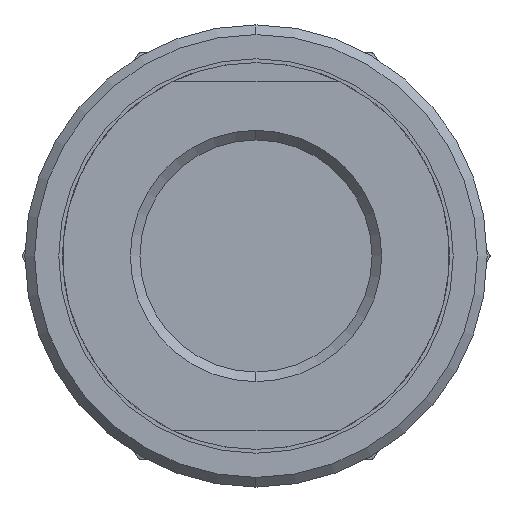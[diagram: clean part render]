
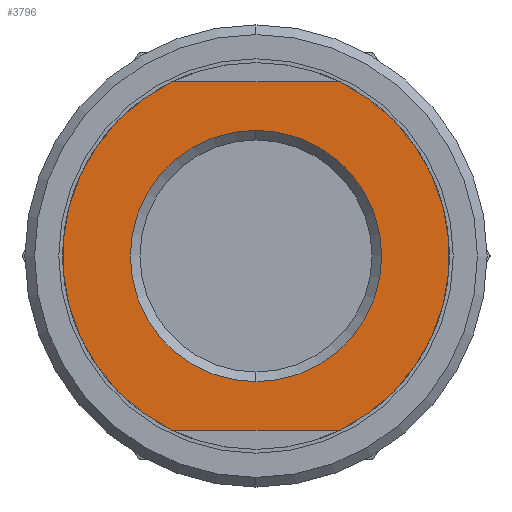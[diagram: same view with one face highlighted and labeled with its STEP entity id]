
A CAD part, left-side view. The second image highlights one B-rep face of the part: STEP entity #3796.
In plain terms, the highlighted planar face has unit normal (-1, 0, 0).
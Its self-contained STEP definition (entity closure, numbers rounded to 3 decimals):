
#171 = CARTESIAN_POINT ( 'NONE',  ( -26.65, 0., -6.5 ) ) ;
#206 = VERTEX_POINT ( 'NONE', #10675 ) ;
#976 = EDGE_CURVE ( 'NONE', #5851, #6873, #10030, .T. ) ;
#2190 = CARTESIAN_POINT ( 'NONE',  ( -26.65, 0., 0. ) ) ;
#2383 = DIRECTION ( 'NONE',  ( 0., 0., 1. ) ) ;
#2431 = DIRECTION ( 'NONE',  ( 1., 0., 0. ) ) ;
#2652 = AXIS2_PLACEMENT_3D ( 'NONE', #2190, #8616, #9720 ) ;
#3107 = EDGE_CURVE ( 'NONE', #206, #10802, #9850, .T. ) ;
#3124 = DIRECTION ( 'NONE',  ( 0., -1., 0. ) ) ;
#3142 = CIRCLE ( 'NONE', #8544, 6.5 ) ;
#3311 = DIRECTION ( 'NONE',  ( 0., 0., 1. ) ) ;
#3658 = DIRECTION ( 'NONE',  ( -1., 0., 0. ) ) ;
#3692 = CIRCLE ( 'NONE', #6057, 6.5 ) ;
#3782 = CARTESIAN_POINT ( 'NONE',  ( -26.65, -4.359, -9. ) ) ;
#3796 = ADVANCED_FACE ( 'NONE', ( #4987, #7841 ), #8865, .F. ) ;
#3965 = CARTESIAN_POINT ( 'NONE',  ( -26.65, 0., 6.5 ) ) ;
#4148 = CARTESIAN_POINT ( 'NONE',  ( -26.65, 0., 0. ) ) ;
#4159 = DIRECTION ( 'NONE',  ( -1., 0., 0. ) ) ;
#4197 = VERTEX_POINT ( 'NONE', #3965 ) ;
#4344 = ORIENTED_EDGE ( 'NONE', *, *, #11261, .T. ) ;
#4987 = FACE_BOUND ( 'NONE', #6875, .T. ) ;
#5207 = EDGE_CURVE ( 'NONE', #10802, #5851, #6081, .T. ) ;
#5851 = VERTEX_POINT ( 'NONE', #3782 ) ;
#5904 = CARTESIAN_POINT ( 'NONE',  ( -26.65, 0., -9. ) ) ;
#6057 = AXIS2_PLACEMENT_3D ( 'NONE', #11055, #3658, #9206 ) ;
#6081 = LINE ( 'NONE', #5904, #6800 ) ;
#6149 = DIRECTION ( 'NONE',  ( -1., 0., 0. ) ) ;
#6800 = VECTOR ( 'NONE', #3124, 1000. ) ;
#6873 = VERTEX_POINT ( 'NONE', #9628 ) ;
#6875 = EDGE_LOOP ( 'NONE', ( #6958, #8575 ) ) ;
#6958 = ORIENTED_EDGE ( 'NONE', *, *, #10389, .F. ) ;
#7064 = CARTESIAN_POINT ( 'NONE',  ( -26.65, 4.359, -9. ) ) ;
#7379 = ORIENTED_EDGE ( 'NONE', *, *, #5207, .T. ) ;
#7841 = FACE_OUTER_BOUND ( 'NONE', #10240, .T. ) ;
#7991 = CARTESIAN_POINT ( 'NONE',  ( -26.65, 0., 0. ) ) ;
#8454 = AXIS2_PLACEMENT_3D ( 'NONE', #8876, #4159, #3311 ) ;
#8544 = AXIS2_PLACEMENT_3D ( 'NONE', #7991, #6149, #2383 ) ;
#8575 = ORIENTED_EDGE ( 'NONE', *, *, #9740, .F. ) ;
#8616 = DIRECTION ( 'NONE',  ( -1., 0., 0. ) ) ;
#8828 = DIRECTION ( 'NONE',  ( 0., 0., -1. ) ) ;
#8836 = VECTOR ( 'NONE', #10090, 1000. ) ;
#8865 = PLANE ( 'NONE',  #8944 ) ;
#8876 = CARTESIAN_POINT ( 'NONE',  ( -26.65, 0., 0. ) ) ;
#8944 = AXIS2_PLACEMENT_3D ( 'NONE', #4148, #2431, #8828 ) ;
#9204 = CARTESIAN_POINT ( 'NONE',  ( -26.65, 0., 9. ) ) ;
#9206 = DIRECTION ( 'NONE',  ( 0., 0., 1. ) ) ;
#9628 = CARTESIAN_POINT ( 'NONE',  ( -26.65, -4.359, 9. ) ) ;
#9720 = DIRECTION ( 'NONE',  ( 0., 0., 1. ) ) ;
#9740 = EDGE_CURVE ( 'NONE', #10946, #4197, #3142, .T. ) ;
#9850 = CIRCLE ( 'NONE', #2652, 10. ) ;
#10030 = CIRCLE ( 'NONE', #8454, 10. ) ;
#10090 = DIRECTION ( 'NONE',  ( 0., 1., 0. ) ) ;
#10240 = EDGE_LOOP ( 'NONE', ( #11378, #4344, #10299, #7379 ) ) ;
#10299 = ORIENTED_EDGE ( 'NONE', *, *, #3107, .T. ) ;
#10389 = EDGE_CURVE ( 'NONE', #4197, #10946, #3692, .T. ) ;
#10675 = CARTESIAN_POINT ( 'NONE',  ( -26.65, 4.359, 9. ) ) ;
#10802 = VERTEX_POINT ( 'NONE', #7064 ) ;
#10946 = VERTEX_POINT ( 'NONE', #171 ) ;
#11055 = CARTESIAN_POINT ( 'NONE',  ( -26.65, 0., 0. ) ) ;
#11261 = EDGE_CURVE ( 'NONE', #6873, #206, #11263, .T. ) ;
#11263 = LINE ( 'NONE', #9204, #8836 ) ;
#11378 = ORIENTED_EDGE ( 'NONE', *, *, #976, .T. ) ;
